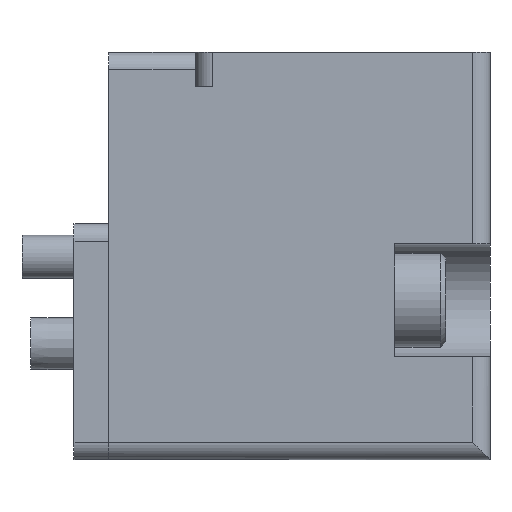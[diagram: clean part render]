
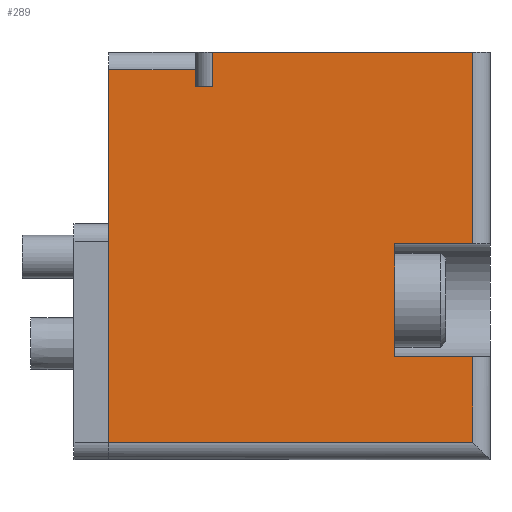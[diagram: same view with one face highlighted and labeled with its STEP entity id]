
A CAD part, left-side view. The second image highlights one B-rep face of the part: STEP entity #289.
In plain terms, the highlighted planar face has unit normal (-1, 0, 0).
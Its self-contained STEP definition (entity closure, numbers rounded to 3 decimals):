
#289=ADVANCED_FACE('',(#822),#823,.F.);
#822=FACE_OUTER_BOUND('',#1717,.T.);
#823=PLANE('',#1718);
#1717=EDGE_LOOP('',(#2632,#2633,#2634,#2635,#2636,#2637,#2638,#2639,#2640,#2641,#2642,#2643));
#1718=AXIS2_PLACEMENT_3D('',#2644,#2645,#2646);
#2632=ORIENTED_EDGE('',*,*,#4576,.T.);
#2633=ORIENTED_EDGE('',*,*,#4577,.T.);
#2634=ORIENTED_EDGE('',*,*,#4578,.F.);
#2635=ORIENTED_EDGE('',*,*,#4579,.T.);
#2636=ORIENTED_EDGE('',*,*,#4580,.T.);
#2637=ORIENTED_EDGE('',*,*,#4581,.T.);
#2638=ORIENTED_EDGE('',*,*,#4582,.T.);
#2639=ORIENTED_EDGE('',*,*,#4583,.F.);
#2640=ORIENTED_EDGE('',*,*,#4584,.T.);
#2641=ORIENTED_EDGE('',*,*,#4585,.T.);
#2642=ORIENTED_EDGE('',*,*,#4586,.F.);
#2643=ORIENTED_EDGE('',*,*,#4587,.T.);
#2644=CARTESIAN_POINT('',(-16.0,-24.0,-6.7));
#2645=DIRECTION('',(1.0,0.0,0.0));
#2646=DIRECTION('',(0.0,1.0,0.0));
#4576=EDGE_CURVE('',#5321,#5322,#5323,.T.);
#4577=EDGE_CURVE('',#5322,#5324,#5325,.T.);
#4578=EDGE_CURVE('',#5326,#5324,#5327,.T.);
#4579=EDGE_CURVE('',#5326,#5328,#5329,.T.);
#4580=EDGE_CURVE('',#5328,#5330,#5331,.T.);
#4581=EDGE_CURVE('',#5330,#5332,#5333,.T.);
#4582=EDGE_CURVE('',#5332,#5334,#5335,.T.);
#4583=EDGE_CURVE('',#5336,#5334,#5337,.T.);
#4584=EDGE_CURVE('',#5336,#5338,#5339,.T.);
#4585=EDGE_CURVE('',#5338,#5340,#5341,.T.);
#4586=EDGE_CURVE('',#5342,#5340,#5343,.T.);
#4587=EDGE_CURVE('',#5342,#5321,#5344,.T.);
#5321=VERTEX_POINT('',#6407);
#5322=VERTEX_POINT('',#6408);
#5323=LINE('',#6409,#6410);
#5324=VERTEX_POINT('',#6411);
#5325=LINE('',#6412,#6413);
#5326=VERTEX_POINT('',#6414);
#5327=LINE('',#6415,#6416);
#5328=VERTEX_POINT('',#6417);
#5329=LINE('',#6418,#6419);
#5330=VERTEX_POINT('',#6420);
#5331=LINE('',#6421,#6422);
#5332=VERTEX_POINT('',#6423);
#5333=LINE('',#6424,#6425);
#5334=VERTEX_POINT('',#6426);
#5335=LINE('',#6427,#6428);
#5336=VERTEX_POINT('',#6429);
#5337=LINE('',#6430,#6431);
#5338=VERTEX_POINT('',#6432);
#5339=LINE('',#6433,#6434);
#5340=VERTEX_POINT('',#6435);
#5341=LINE('',#6436,#6437);
#5342=VERTEX_POINT('',#6438);
#5343=LINE('',#6439,#6440);
#5344=LINE('',#6441,#6442);
#6407=CARTESIAN_POINT('',(-16.0,-18.5,5.75));
#6408=CARTESIAN_POINT('',(-16.0,-23.0,5.75));
#6409=CARTESIAN_POINT('',(-16.0,-18.5,5.75));
#6410=VECTOR('',#7753,1.0);
#6411=CARTESIAN_POINT('',(-16.0,-23.0,16.8));
#6412=CARTESIAN_POINT('',(-16.0,-23.0,-6.7));
#6413=VECTOR('',#7754,1.0);
#6414=CARTESIAN_POINT('',(-16.0,-8.,16.8));
#6415=CARTESIAN_POINT('',(-16.0,-7.,16.8));
#6416=VECTOR('',#7755,1.0);
#6417=CARTESIAN_POINT('',(-16.0,-8.,14.8));
#6418=CARTESIAN_POINT('',(-16.0,-8.,14.8));
#6419=VECTOR('',#7756,1.0);
#6420=CARTESIAN_POINT('',(-16.0,-7.0,14.8));
#6421=CARTESIAN_POINT('',(-16.0,-24.0,14.8));
#6422=VECTOR('',#7757,1.0);
#6423=CARTESIAN_POINT('',(-16.0,-7.0,15.8));
#6424=CARTESIAN_POINT('',(-16.0,-7.0,-6.7));
#6425=VECTOR('',#7758,1.0);
#6426=CARTESIAN_POINT('',(-16.0,-2.0,15.8));
#6427=CARTESIAN_POINT('',(-16.0,-7.0,15.8));
#6428=VECTOR('',#7759,1.0);
#6429=CARTESIAN_POINT('',(-16.0,-2.0,-5.7));
#6430=CARTESIAN_POINT('',(-16.0,-2.0,-6.7));
#6431=VECTOR('',#7760,1.0);
#6432=CARTESIAN_POINT('',(-16.0,-23.0,-5.7));
#6433=CARTESIAN_POINT('',(-16.0,-24.0,-5.7));
#6434=VECTOR('',#7761,1.0);
#6435=CARTESIAN_POINT('',(-16.0,-23.0,-0.75));
#6436=CARTESIAN_POINT('',(-16.0,-23.0,-6.7));
#6437=VECTOR('',#7762,1.0);
#6438=CARTESIAN_POINT('',(-16.0,-18.5,-0.75));
#6439=CARTESIAN_POINT('',(-16.0,-18.5,-0.75));
#6440=VECTOR('',#7763,1.0);
#6441=CARTESIAN_POINT('',(-16.0,-18.5,-0.75));
#6442=VECTOR('',#7764,1.0);
#7753=DIRECTION('',(0.0,-1.0,0.0));
#7754=DIRECTION('',(0.0,0.0,1.0));
#7755=DIRECTION('',(0.0,-1.0,0.0));
#7756=DIRECTION('',(0.0,0.0,-1.0));
#7757=DIRECTION('',(0.0,1.0,0.0));
#7758=DIRECTION('',(0.0,0.0,1.0));
#7759=DIRECTION('',(0.0,1.0,0.0));
#7760=DIRECTION('',(0.0,0.0,1.0));
#7761=DIRECTION('',(0.0,-1.0,0.0));
#7762=DIRECTION('',(0.0,0.0,1.0));
#7763=DIRECTION('',(0.0,-1.0,0.0));
#7764=DIRECTION('',(0.0,0.0,1.0));
